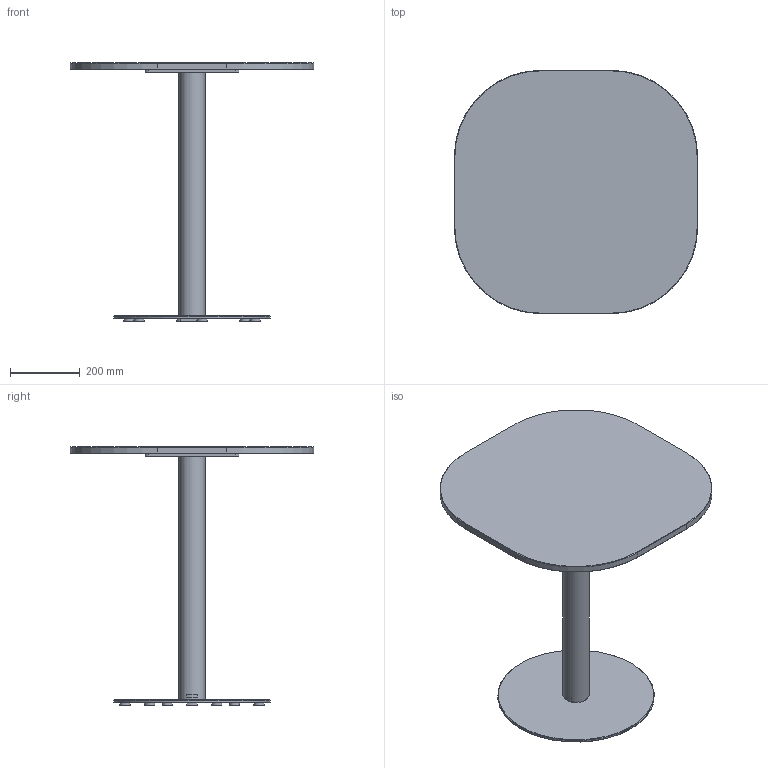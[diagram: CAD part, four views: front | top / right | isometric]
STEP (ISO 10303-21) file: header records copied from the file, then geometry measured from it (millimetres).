
FILE_DESCRIPTION( ('This file contains a STEP AP42 implementation' ,'as created by ZW3D STEP Interface translator.') ,'2;1' );
FILE_NAME( 'Henri - B_Rond - F2 - M1 - 700 x 700 x 750.stp' ,'24 912.1524 7', (''), ('ZWCAD Software Co.'), 'Version 1.0', 'ZW3D to STEP translator', '' );
FILE_SCHEMA(('AUTOMOTIVE_DESIGN { 1 0 10303 214 1 1 1 1 }'));
Length unit declared in the file: millimetre
Products named in the file (14): 0; PIED BISTROT PARAMETRIQUE_; COLONNE ACIER Ø76 V.02_; TUB-D076-02_; PLA-R76B-01_; SOCLE ACIER C Ø450 V.02_; SCL-D450-02_; PLA-R30A-01_; PLA-R30A-01; CROIX ACIER 370 V.02_; CRX-X370-02_; WUERTH 0276063020 Euro-screw 6.3x2 Verzinkt_; PLATEAU BISTROT PARAMETRIQUE_; insert_m6_13_
Assembly tree (24 placements, depth 3):
  0
  PIED BISTROT PARAMETRIQUE_
    COLONNE ACIER Ø76 V.02_
      TUB-D076-02_
      PLA-R76B-01_  x2
    SOCLE ACIER C Ø450 V.02_
      SCL-D450-02_
      PLA-R30A-01_
      PLA-R30A-01  x5
    CROIX ACIER 370 V.02_
      CRX-X370-02_
    WUERTH 0276063020 Euro-screw 6.3x2 Verzinkt_
    PLATEAU BISTROT PARAMETRIQUE_
      insert_m6_13_  x8
Bounding box: 700 x 700 x 744 mm (x, y, z)
Volume: 10944024.2 mm3; surface area: 1770679.3 mm2
Topology: 21 solids, 21 shells, 524 faces, 1273 edges, 802 vertices
Faces by surface type: plane 254, bspline 121, cylinder 99, cone 49, torus 1
Full cylindrical faces by diameter (mm): 4.88 x1, 6 x8, 6.3 x1, 8 x47, 12 x2, 14 x2, 30 x6, 72 x1, 76 x1, 450 x1
Entity records: 11734 total; most frequent: CARTESIAN_POINT 3302, ORIENTED_EDGE 1526, DIRECTION 1424, EDGE_CURVE 763, VERTEX_POINT 490, VECTOR 476, LINE 476, AXIS2_PLACEMENT_3D 474
